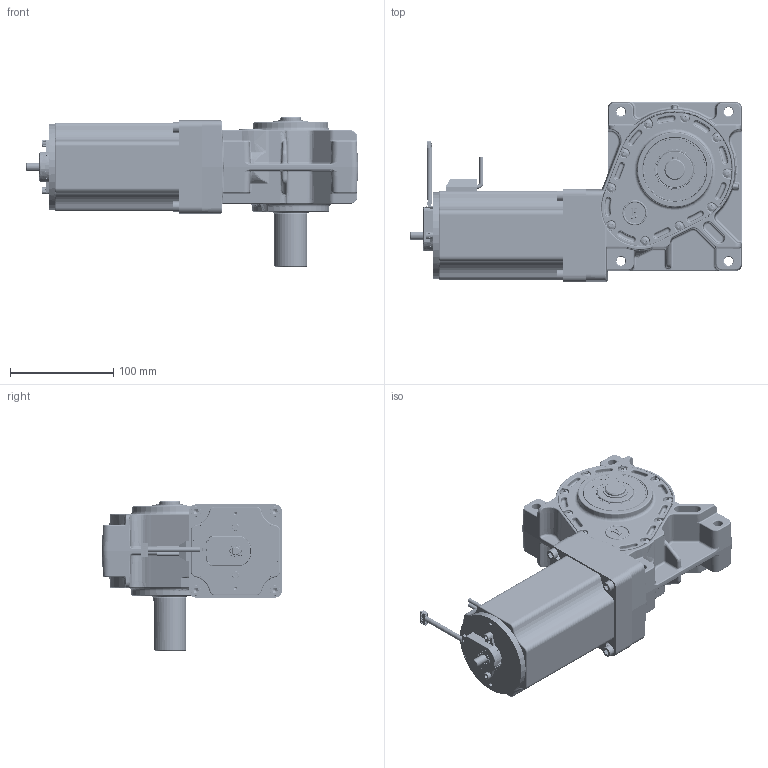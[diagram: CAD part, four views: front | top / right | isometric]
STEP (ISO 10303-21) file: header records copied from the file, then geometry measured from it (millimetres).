
FILE_DESCRIPTION (( 'STEP AP214' ), '1' );
FILE_NAME ('PBL86-80-GB65 - Encoder - Shaft.STEP', '2024-09-15T10:20:20', ( '' ), ( '' ), 'SwSTEP 2.0', 'SolidWorks 2023', '' );
FILE_SCHEMA (( 'AUTOMOTIVE_DESIGN' ));
Length unit declared in the file: millimetre
Products named in the file (1): PBL86-80-GB65 - Encoder - Shaft
Bounding box: 320.95 x 174.1 x 145 mm (x, y, z)
Surface area: 417743 mm2 (no closed solid volume)
Topology: 0 solids, 87 shells, 7638 faces, 19596 edges, 12148 vertices
Faces by surface type: plane 2577, cylinder 2066, bspline 1334, cone 795, torus 710, sphere 156
Entity records: 392131 total; most frequent: CARTESIAN_POINT 140028, ORIENTED_EDGE 38590, DIRECTION 29831, EDGE_CURVE 19297, VERTEX_POINT 12128, AXIS2_PLACEMENT_3D 12080, EDGE_LOOP 8209, UNCERTAINTY_MEASURE_WITH_UNIT 7697
